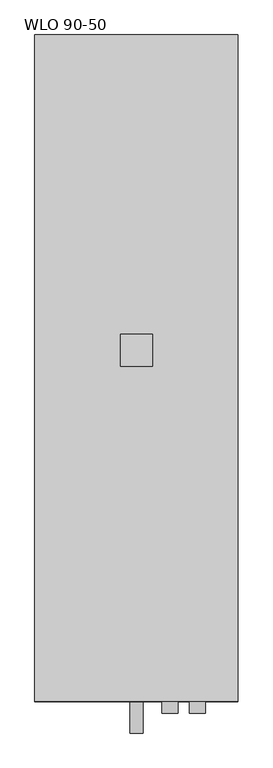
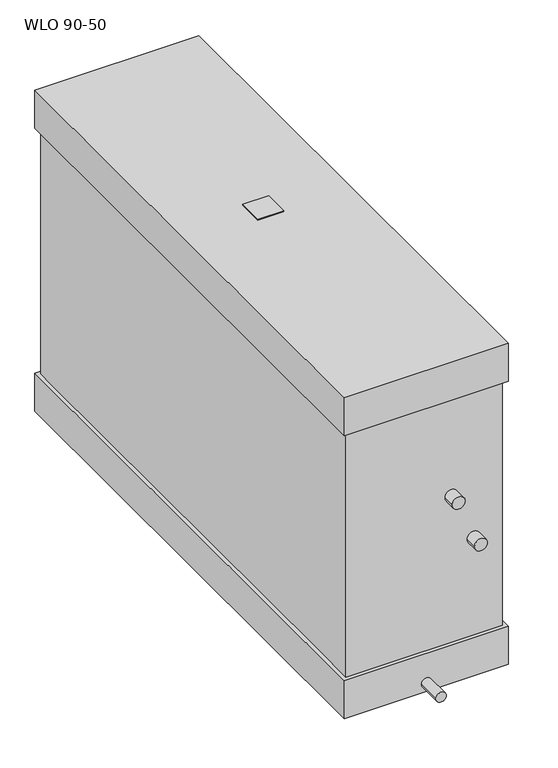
"""IFC4 building model written with IfcOpenShell, lengths in millimetres: proxy geometry, KORF_Воздухоохладитель_Водяной_WLO_Левый : WLO 90-50."""

import ifcopenshell
import ifcopenshell.guid

model = None  # the IFC model being written
_history = None  # IfcOwnerHistory: only IFC2X3 demands one
_inside = {}  # id of a spatial element -> (the spatial element, [elements in it])
_under = {}  # id of a project, library or spatial element -> (it, [spatial elements below it])
_declared = {}  # id of a project -> (the project, [libraries it declares])
_typed = {}  # id of a type object -> (the type object, [elements of that type])
_made_of = {}  # id of a material, layer set ... -> (it, [elements and type objects made of it])


def new_model(schema):
    """Start an empty IFC model of exactly this schema.

    Asked for "IFC4X3", IfcOpenShell would pick the latest addendum, in which some entities
    have other attributes; the version numbers below select the first issue.
    IFC2X3 requires an IfcOwnerHistory on every rooted entity: one is made here for all.
    """
    global model, _history
    if schema == "IFC4X3":
        model = ifcopenshell.file(schema_version=(4, 3, 0, 0))
    else:
        model = ifcopenshell.file(schema=schema)
    _inside.clear()
    _under.clear()
    _declared.clear()
    _typed.clear()
    _made_of.clear()
    _history = None
    if model.schema == "IFC2X3":
        org = make("IfcOrganization", Name="unknown")
        user = make(
            "IfcPersonAndOrganization",
            ThePerson=make("IfcPerson", FamilyName="unknown"),
            TheOrganization=org,
        )
        app = make(
            "IfcApplication",
            ApplicationDeveloper=org,
            Version="unknown",
            ApplicationFullName="unknown",
            ApplicationIdentifier="unknown",
        )
        _history = make(
            "IfcOwnerHistory",
            OwningUser=user,
            OwningApplication=app,
            ChangeAction="ADDED",
            CreationDate=0,
        )
    return model


def make(cls, **values):
    """One entity of the class cls with the attributes given. An attribute that is None is left unset."""
    return model.create_entity(
        cls, **{name: value for name, value in values.items() if value is not None}
    )


def rooted(cls, **values):
    """An entity with a GlobalId (a new one), such as an element, a storey or a relation."""
    return make(cls, GlobalId=ifcopenshell.guid.new(), OwnerHistory=_history, **values)


def si_unit(unit_type, name, prefix=None):
    """IfcSIUnit, for example si_unit("LENGTHUNIT", "METRE", prefix="MILLI")."""
    return make("IfcSIUnit", UnitType=unit_type, Prefix=prefix, Name=name)


def assignment(units):
    """IfcUnitAssignment: the units of a project."""
    return None if units is None else make("IfcUnitAssignment", Units=units)


def point(xyz):
    """IfcCartesianPoint."""
    return None if xyz is None else make("IfcCartesianPoint", Coordinates=xyz)


def direction(xyz):
    """IfcDirection."""
    return None if xyz is None else make("IfcDirection", DirectionRatios=xyz)


def frame(location, z_axis=None, x_axis=None):
    """IfcAxis2Placement3D, a coordinate frame: its origin and axes. An axis left out is left unset."""
    return make(
        "IfcAxis2Placement3D",
        Location=point(location),
        Axis=direction(z_axis),
        RefDirection=direction(x_axis),
    )


def frame_2d(location, x_axis=None):
    """IfcAxis2Placement2D, a coordinate frame in the plane: its origin and x axis."""
    return make(
        "IfcAxis2Placement2D", Location=point(location), RefDirection=direction(x_axis)
    )


def origin():
    """The frame at (0, 0, 0) with its axes left unset."""
    return frame((0.0, 0.0, 0.0))


def place(relative_to, where):
    """IfcLocalPlacement: puts the frame where relative to a parent placement (None: the world)."""
    return make(
        "IfcLocalPlacement", PlacementRelTo=relative_to, RelativePlacement=where
    )


def context(
    kind, dimensions, precision=None, world=None, true_north=None, identifier=None
):
    """IfcGeometricRepresentationContext, for example the 3D "Model" context."""
    return make(
        "IfcGeometricRepresentationContext",
        ContextIdentifier=identifier,
        ContextType=kind,
        CoordinateSpaceDimension=dimensions,
        Precision=precision,
        WorldCoordinateSystem=world,
        TrueNorth=true_north,
    )


def project(units=None, contexts=None):
    """IfcProject with its units and contexts."""
    return rooted(
        "IfcProject",
        Name="project",
        RepresentationContexts=contexts,
        UnitsInContext=assignment(units),
    )


def spatial(cls, under=None, at=None, **own):
    """A site, building, storey or space (cls), placed at a placement, below another one or the project."""
    s = rooted(cls, ObjectPlacement=at, **own)
    if under is not None:
        _under.setdefault(under.id(), (under, []))[1].append(s)
    return s


def polyline(points):
    """IfcPolyline through the points."""
    return make("IfcPolyline", Points=[point(p) for p in points])


def circle_curve(where, radius):
    """IfcCircle in the frame where."""
    return make("IfcCircle", Position=where, Radius=radius)


def trimmed(basis, trim1, trim2, sense, master):
    """IfcTrimmedCurve: the piece of a basis curve between two trims."""
    return make(
        "IfcTrimmedCurve",
        BasisCurve=basis,
        Trim1=trim1,
        Trim2=trim2,
        SenseAgreement=sense,
        MasterRepresentation=master,
    )


def segment(curve, same_sense, transition):
    """IfcCompositeCurveSegment."""
    return make(
        "IfcCompositeCurveSegment",
        Transition=transition,
        SameSense=same_sense,
        ParentCurve=curve,
    )


def composite_curve(segments, self_intersect=None):
    """IfcCompositeCurve: segments joined end to end."""
    return make("IfcCompositeCurve", Segments=segments, SelfIntersect=self_intersect)


def outline(outer, holes=None, kind="AREA"):
    """IfcArbitraryClosedProfileDef: a profile drawn as a closed curve; with holes, ...WithVoids."""
    if holes is None:
        return make("IfcArbitraryClosedProfileDef", ProfileType=kind, OuterCurve=outer)
    return make(
        "IfcArbitraryProfileDefWithVoids",
        ProfileType=kind,
        OuterCurve=outer,
        InnerCurves=holes,
    )


def extrude(swept, where, along, depth):
    """IfcExtrudedAreaSolid: the profile swept, set in the frame where, extruded along a direction by depth."""
    return make(
        "IfcExtrudedAreaSolid",
        SweptArea=swept,
        Position=where,
        ExtrudedDirection=direction(along),
        Depth=depth,
    )


def faces_of(points, faces, orient=None, outer=None):
    """IfcFace entities. A face is a list of loops; a loop is a list of indices into points, from 0.

    orient and outer hold one flag for each loop. By default every Orientation is true, the
    first loop of a face is its IfcFaceOuterBound and the others are IfcFaceBound.
    """
    made = []
    for i, loops in enumerate(faces):
        bounds = []
        for j, loop in enumerate(loops):
            is_outer = j == 0 if outer is None else outer[i][j]
            bounds.append(
                make(
                    "IfcFaceOuterBound" if is_outer else "IfcFaceBound",
                    Bound=make("IfcPolyLoop", Polygon=[points[k] for k in loop]),
                    Orientation=True if orient is None else orient[i][j],
                )
            )
        made.append(make("IfcFace", Bounds=bounds))
    return made


def faceted_brep(points, faces, orient=None, outer=None, voids=None):
    """IfcFacetedBrep: a solid bounded by flat faces; with voids (closed shells), ...WithVoids."""
    shared = [point(p) for p in points]
    hull = make("IfcClosedShell", CfsFaces=faces_of(shared, faces, orient, outer))
    if voids is None:
        return make("IfcFacetedBrep", Outer=hull)
    return make(
        "IfcFacetedBrepWithVoids",
        Outer=hull,
        Voids=[
            make(cls, CfsFaces=faces_of(shared, fs, o, b)) for cls, fs, o, b in voids
        ],
    )


def shape(context_of_items, identifier, shape_type, items):
    """IfcShapeRepresentation: the items that make up one representation, for example the "Body"."""
    return make(
        "IfcShapeRepresentation",
        ContextOfItems=context_of_items,
        RepresentationIdentifier=identifier,
        RepresentationType=shape_type,
        Items=items,
    )


def source(mapping_origin, context_of_items, identifier, shape_type, items):
    """IfcRepresentationMap: a shape defined once, which mapped items show again and again."""
    return make(
        "IfcRepresentationMap",
        MappingOrigin=mapping_origin,
        MappedRepresentation=shape(context_of_items, identifier, shape_type, items),
    )


def transform(
    local_origin,
    x_axis=None,
    y_axis=None,
    z_axis=None,
    scale=None,
    scale2=None,
    scale3=None,
    uniform=True,
):
    """IfcCartesianTransformationOperator3D, or its non-uniform kind. x_axis, y_axis, z_axis: its Axis1, 2, 3."""
    if uniform:
        return make(
            "IfcCartesianTransformationOperator3D",
            Axis1=direction(x_axis),
            Axis2=direction(y_axis),
            LocalOrigin=point(local_origin),
            Scale=scale,
            Axis3=direction(z_axis),
        )
    return make(
        "IfcCartesianTransformationOperator3DnonUniform",
        Axis1=direction(x_axis),
        Axis2=direction(y_axis),
        LocalOrigin=point(local_origin),
        Scale=scale,
        Axis3=direction(z_axis),
        Scale2=scale2,
        Scale3=scale3,
    )


def mapped(mapping_source, mapping_target):
    """IfcMappedItem: shows the shape of a source again, moved by a transform."""
    return make(
        "IfcMappedItem", MappingSource=mapping_source, MappingTarget=mapping_target
    )


def made_of(thing, what):
    """Note that an element or type object is made of a material, layer set ...; save() writes the relation."""
    if what is not None:
        _made_of.setdefault(what.id(), (what, []))[1].append(thing)
    return thing


def element(
    cls,
    number,
    at=None,
    inside=None,
    cuts=None,
    type_object=None,
    material=None,
    context=None,
    identifier="Body",
    shape_type=None,
    held_by="IfcProductDefinitionShape",
    body=None,
    shapes=None,
    **own,
):
    """One element of the class cls, such as IfcWall. Its Tag is "e" and its number.

    at: its placement. inside: the storey or other place that contains it. cuts: it is an
    opening in that element (IfcRelVoidsElement). A single representation is given by context,
    identifier, shape_type and body (its items); several are given by shapes. held_by: the class
    of the entity that holds the representations. save() writes the other relations.
    """
    e = rooted(cls, Tag="e%d" % number, ObjectPlacement=at, **own)
    if body is not None:
        shapes = [shape(context, identifier, shape_type, body)]
    if shapes is not None:
        e.Representation = make(held_by, Representations=shapes)
    if inside is not None:
        _inside.setdefault(inside.id(), (inside, []))[1].append(e)
    if cuts is not None:
        rooted(
            "IfcRelVoidsElement", RelatingBuildingElement=cuts, RelatedOpeningElement=e
        )
    if type_object is not None:
        _typed.setdefault(type_object.id(), (type_object, []))[1].append(e)
    return made_of(e, material)


def aggregate(whole, parts):
    """IfcRelAggregates: a whole, such as a stair, and the parts it consists of."""
    return rooted("IfcRelAggregates", RelatingObject=whole, RelatedObjects=parts)


def save(model, path):
    """Write the relations noted so far, then the file.

    IfcRelAggregates (storeys below a building ...), IfcRelContainedInSpatialStructure (elements
    in a storey), IfcRelDefinesByType, IfcRelAssociatesMaterial and IfcRelDeclares: one each for
    every whole, place, type object, material and project.
    """
    for whole, parts in _under.values():
        aggregate(whole, parts)
    for where, things in _inside.values():
        rooted(
            "IfcRelContainedInSpatialStructure",
            RelatedElements=things,
            RelatingStructure=where,
        )
    for kind, things in _typed.values():
        rooted("IfcRelDefinesByType", RelatedObjects=things, RelatingType=kind)
    for what, things in _made_of.values():
        rooted("IfcRelAssociatesMaterial", RelatedObjects=things, RelatingMaterial=what)
    for by, libraries in _declared.values():
        rooted("IfcRelDeclares", RelatingContext=by, RelatedDefinitions=libraries)
    model.write(path)


def wlo_90_50_f1975830(model_context):
    return source(origin(), model_context, "Body", "SolidModel", [
        extrude(outline(polyline([(133.0, -25.0), (133.0, 25.0), (183.0, 25.0), (183.0, -25.0), (133.0, -25.0)])), frame((0.0, 0.0, 327.5), z_axis=(0.0, 0.0, 1.0), x_axis=(1.0, 0.0, 0.0)), (0.0, 0.0, 1.0), 2.0),
        faceted_brep([(316.0, -545.5, 327.5), (316.0, -545.5, 250.0), (316.0, 489.5, 250.0), (316.0, 489.5, 327.5), (316.0, -545.5, -250.0), (316.0, -545.5, -327.5), (316.0, 489.5, -327.5), (316.0, 489.5, -250.0), (0.0, -545.5, 327.5), (0.0, 489.5, 327.5), (0.0, 489.5, 250.0), (0.0, -545.5, 250.0), (0.0, -545.5, -250.0), (0.0, 489.5, -250.0), (0.0, 489.5, -327.5), (0.0, -545.5, -327.5), (7.0, -538.5, 250.0), (309.0, -538.5, 250.0), (309.0, -450.0, 250.0), (309.0, 450.0, 250.0), (309.0, 482.5, 250.0), (7.0, 482.5, 250.0), (7.0, 450.0, 250.0), (7.0, -450.0, 250.0), (309.0, -538.5, -250.0), (7.0, -538.5, -250.0), (7.0, -450.0, -250.0), (7.0, 450.0, -250.0), (7.0, 482.5, -250.0), (309.0, 482.5, -250.0), (309.0, 450.0, -250.0), (309.0, -450.0, -250.0)], [[[0, 1, 2, 3]], [[4, 5, 6, 7]], [[8, 9, 10, 11]], [[12, 13, 14, 15]], [[1, 0, 8, 11]], [[2, 1, 11, 10], [16, 17, 18, 19, 20, 21, 22, 23]], [[3, 2, 10, 9]], [[0, 3, 9, 8]], [[5, 4, 12, 15]], [[6, 5, 15, 14]], [[7, 6, 14, 13]], [[4, 7, 13, 12], [24, 25, 26, 27, 28, 29, 30, 31]], [[17, 24, 31, 30, 29, 20, 19, 18]], [[21, 28, 27, 26, 25, 16, 23, 22]], [[24, 17, 16, 25]], [[20, 29, 28, 21]]]),
        extrude(outline(composite_curve([segment(trimmed(circle_curve(frame_2d((50.0, 210.0)), 12.5), [point((50.0, 197.5))], [point((50.0, 222.5))], False, "CARTESIAN"), True, "CONTINUOUS"), segment(trimmed(circle_curve(frame_2d((50.0, 210.0)), 12.5), [point((50.0, 222.5))], [point((50.0, 197.5))], False, "CARTESIAN"), True, "CONTINUOUS")], self_intersect=False)), frame((0.0, -563.5, 0.0), z_axis=(0.0, 1.0, 0.0), x_axis=(0.0, 0.0, 1.0)), (0.0, 0.0, 1.0), 25.0),
        extrude(outline(composite_curve([segment(trimmed(circle_curve(frame_2d((-50.0, 253.0)), 12.5), [point((-50.0, 240.5))], [point((-50.0, 265.5))], False, "CARTESIAN"), True, "CONTINUOUS"), segment(trimmed(circle_curve(frame_2d((-50.0, 253.0)), 12.5), [point((-50.0, 265.5))], [point((-50.0, 240.5))], False, "CARTESIAN"), True, "CONTINUOUS")], self_intersect=False)), frame((0.0, -563.5, 0.0), z_axis=(0.0, 1.0, 0.0), x_axis=(0.0, 0.0, 1.0)), (0.0, 0.0, 1.0), 25.0),
        extrude(outline(composite_curve([segment(trimmed(circle_curve(frame_2d((-309.5, 158.0)), 10.0), [point((-309.5, 148.0))], [point((-309.5, 168.0))], False, "CARTESIAN"), True, "CONTINUOUS"), segment(trimmed(circle_curve(frame_2d((-309.5, 158.0)), 10.0), [point((-309.5, 168.0))], [point((-309.5, 148.0))], False, "CARTESIAN"), True, "CONTINUOUS")], self_intersect=False)), frame((0.0, -594.5, 0.0), z_axis=(0.0, 1.0, 0.0), x_axis=(0.0, 0.0, 1.0)), (0.0, 0.0, 1.0), 49.0),
    ])


if __name__ == "__main__":
    model = new_model("IFC4")
    model_context = context("Model", 3, world=origin())
    ifc_project = project(units=[si_unit("LENGTHUNIT", "METRE", prefix="MILLI")], contexts=[model_context])
    site = spatial("IfcSite", under=ifc_project)
    building = spatial("IfcBuilding", under=site)
    placement = place(None, origin())
    wlo_90_50_shape = wlo_90_50_f1975830(model_context)
    element("IfcBuildingElementProxy", 1, Name="KORF_Воздухоохладитель_Водяной_WLO_Левый : WLO 90-50", ObjectType="KORF_Воздухоохладитель_Водяной_WLO_Левый : WLO 90-50", at=placement, inside=building, context=model_context, shape_type="MappedRepresentation", body=[
        mapped(wlo_90_50_shape, transform((0.0, 0.0, 0.0), x_axis=(1.0, 0.0, 0.0), y_axis=(0.0, 1.0, 0.0), z_axis=(0.0, 0.0, 1.0))),
    ])
    save(model, "model.ifc")
